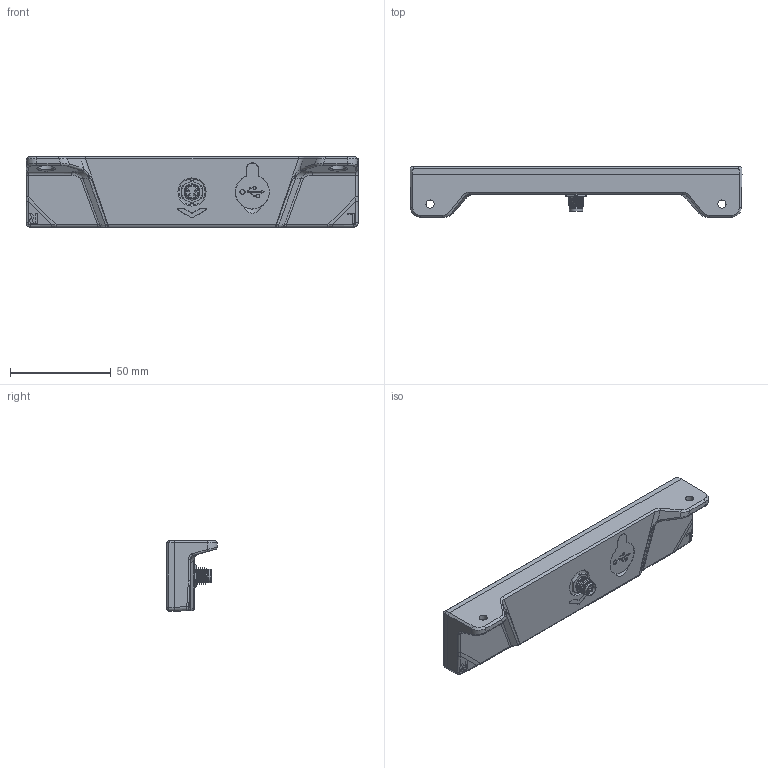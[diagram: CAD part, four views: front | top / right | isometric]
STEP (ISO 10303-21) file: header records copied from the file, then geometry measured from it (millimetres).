
FILE_DESCRIPTION(/* description */ ('STEP AP242','CAx-IF Rec.Pracs.---Representation and Presentation of Product Manufacturing Information (PMI)---4.0---2014-10-13','CAx-IF Rec.Pracs.---3D Tessellated Geometry---0.4---2014-09-14','2;1'),/* implementation_level */ '2;1');
FILE_NAME(/* name */ '669e4807edcb4e70c6677302',/* time_stamp */ '2024-07-22T11:52:41Z',/* author */ (''),/* organization */ (''),/* preprocessor_version */ 'ST-DEVELOPER v20',/* originating_system */ ' ',/* authorisation */ ' ');
FILE_SCHEMA (('AP242_MANAGED_MODEL_BASED_3D_ENGINEERING_MIM_LF { 1 0 10303 442 1 1 4 }'));
Length unit declared in the file: metre
Products named in the file (9): MTS160ModelMini; Bottom Cover; M17 screw; Top Cover; USB Cap; C-T4040034041-000; VLight6 Guide; pcb; Part 1
Assembly tree (14 placements, depth 2):
  MTS160ModelMini
    Bottom Cover
    M17 screw  x7
    Top Cover
    USB Cap
    C-T4040034041-000
    VLight6 Guide
    pcb
    Part 1
Bounding box: 165 x 25 x 35 mm (x, y, z)
Volume: 48924.9 mm3; surface area: 48911.9 mm2
Topology: 14 solids, 14 shells, 1091 faces, 2837 edges, 1844 vertices
Faces by surface type: plane 668, cylinder 296, cone 58, bspline 54, torus 11, sphere 4
Full cylindrical faces by diameter (mm): 1 x8, 1.1 x6, 1.2 x1, 1.8 x7, 1.9 x7, 2.1 x8, 2.5 x1, 2.6 x1, 3 x11, 3.1 x8, 4.1 x2, 4.5 x7, 5.8 x1, 6.5 x1, 6.9 x1, 7 x7, 8 x2, 12 x1, 14.2 x2, 19 x1
Entity records: 33624 total; most frequent: CARTESIAN_POINT 8694, ORIENTED_EDGE 5106, DIRECTION 4952, EDGE_CURVE 2553, VERTEX_POINT 1717, LINE 1696, VECTOR 1696, AXIS2_PLACEMENT_3D 1628
